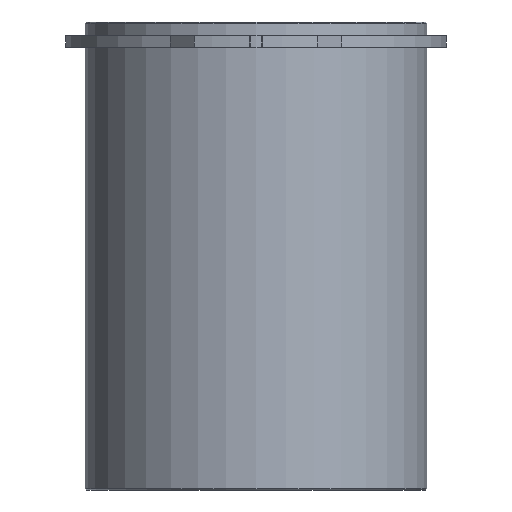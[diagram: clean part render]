
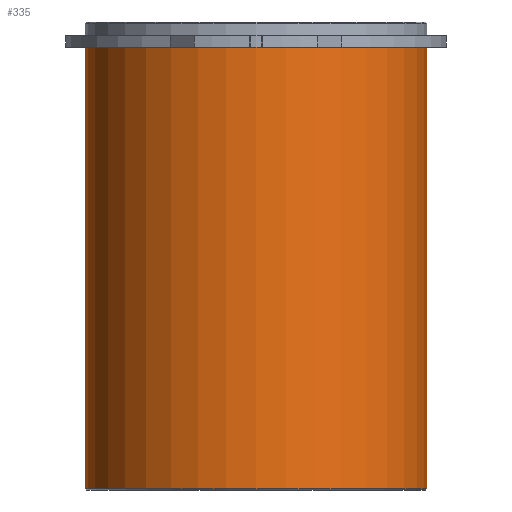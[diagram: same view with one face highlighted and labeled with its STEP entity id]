
A CAD part, front view. The second image highlights one B-rep face of the part: STEP entity #335.
In plain terms, the highlighted cylindrical face has radius 45.625 mm (diameter 91.25 mm), a partial arc.
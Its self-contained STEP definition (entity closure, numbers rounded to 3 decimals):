
#294=CARTESIAN_POINT('',(0.0,0.,-59.0));
#295=DIRECTION('',(0.0,0.,1.0));
#296=DIRECTION('',(1.0,0.0,0.0));
#297=AXIS2_PLACEMENT_3D('',#294,#295,#296);
#298=CYLINDRICAL_SURFACE('',#297,45.625);
#299=CARTESIAN_POINT('',(45.625,0.0,0.0));
#300=VERTEX_POINT('',#299);
#301=CARTESIAN_POINT('',(45.625,0.,-118.0));
#302=VERTEX_POINT('',#301);
#303=CARTESIAN_POINT('',(45.625,0.0,0.0));
#304=DIRECTION('',(0.0,0.0,-1.0));
#305=VECTOR('',#304,118.0);
#306=LINE('',#303,#305);
#307=EDGE_CURVE('',#300,#302,#306,.T.);
#308=ORIENTED_EDGE('',*,*,#307,.F.);
#309=CARTESIAN_POINT('',(-45.625,0.,0.0));
#310=VERTEX_POINT('',#309);
#311=CARTESIAN_POINT('',(0.0,0.0,0.0));
#312=DIRECTION('',(0.0,0.0,1.0));
#313=DIRECTION('',(1.0,0.0,0.0));
#314=AXIS2_PLACEMENT_3D('',#311,#312,#313);
#315=CIRCLE('',#314,45.625);
#316=EDGE_CURVE('',#310,#300,#315,.T.);
#317=ORIENTED_EDGE('',*,*,#316,.F.);
#318=CARTESIAN_POINT('',(-45.625,0.,-118.0));
#319=VERTEX_POINT('',#318);
#320=CARTESIAN_POINT('',(-45.625,0.,0.0));
#321=DIRECTION('',(0.0,0.0,-1.0));
#322=VECTOR('',#321,118.0);
#323=LINE('',#320,#322);
#324=EDGE_CURVE('',#310,#319,#323,.T.);
#325=ORIENTED_EDGE('',*,*,#324,.T.);
#326=CARTESIAN_POINT('',(0.0,0.,-118.0));
#327=DIRECTION('',(0.0,0.0,1.0));
#328=DIRECTION('',(1.0,0.0,0.0));
#329=AXIS2_PLACEMENT_3D('',#326,#327,#328);
#330=CIRCLE('',#329,45.625);
#331=EDGE_CURVE('',#319,#302,#330,.T.);
#332=ORIENTED_EDGE('',*,*,#331,.T.);
#333=EDGE_LOOP('',(#308,#317,#325,#332));
#334=FACE_OUTER_BOUND('',#333,.T.);
#335=ADVANCED_FACE('',(#334),#298,.T.);
